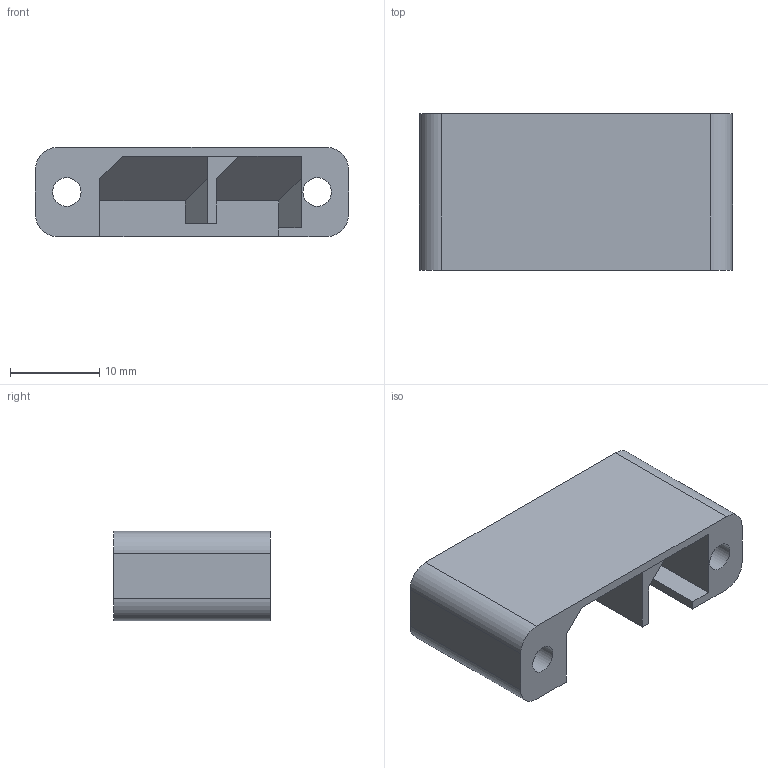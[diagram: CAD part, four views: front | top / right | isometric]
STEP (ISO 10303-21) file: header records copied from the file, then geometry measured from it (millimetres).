
FILE_DESCRIPTION(/* description */ (''),/* implementation_level */ '2;1');
FILE_NAME(/* name */ 'C:/Users/jack-_000/Documents/3dPrinter/Models/Venture Aeon/Bowden X Carriage/Fan Duct.step',/* time_stamp */ '2017-03-18T19:33:40+00:00',/* author */ (''),/* organization */ (''),/* preprocessor_version */ 'ST-DEVELOPER v16.5',/* originating_system */ 'Autodesk Translation Framework v5.2.0.2920',/* authorisation */ '');
FILE_SCHEMA (('AUTOMOTIVE_DESIGN { 1 0 10303 214 3 1 1 }'));
Length unit declared in the file: millimetre
Products named in the file (1): Hotend Fan Duct v14
Bounding box: 35 x 17.5 x 10 mm (x, y, z)
Volume: 3051.3 mm3; surface area: 3076.3 mm2
Topology: 1 solids, 1 shells, 99 faces, 260 edges, 173 vertices
Faces by surface type: plane 61, bspline 30, cylinder 8
Full cylindrical faces by diameter (mm): 3.2 x2, 6 x2
Entity records: 3301 total; most frequent: CARTESIAN_POINT 1035, ORIENTED_EDGE 508, DIRECTION 350, EDGE_CURVE 254, LINE 178, VECTOR 178, VERTEX_POINT 171, EDGE_LOOP 117
